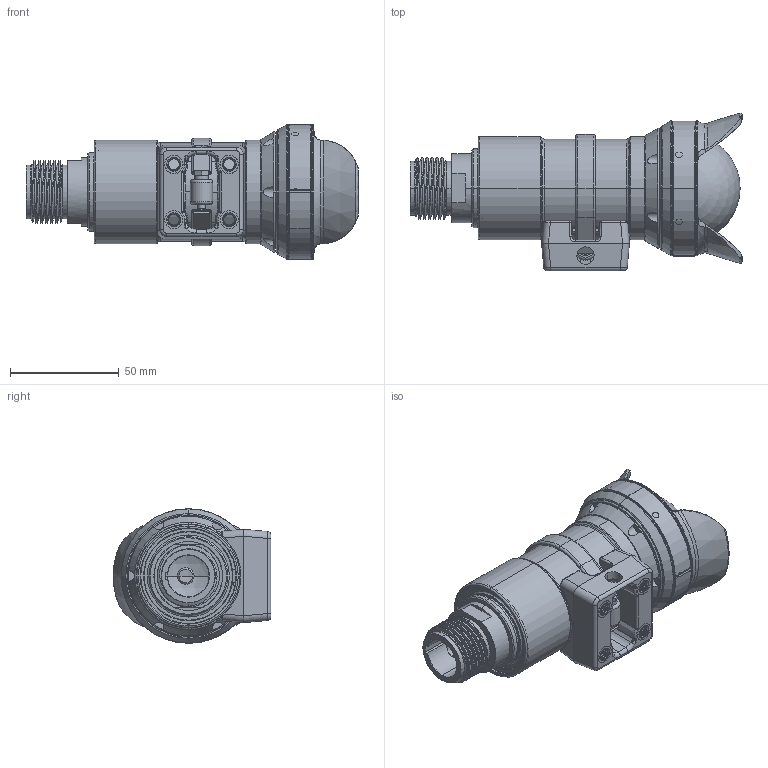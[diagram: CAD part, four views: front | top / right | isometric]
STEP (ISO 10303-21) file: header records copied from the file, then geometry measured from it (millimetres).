
FILE_DESCRIPTION (( 'STEP AP214' ), '1' );
FILE_NAME ('HDMSC-D-MINL-0B-E-20140710a.STEP', '2014-07-10T16:43:39', ( '' ), ( '' ), 'SwSTEP 2.0', 'SolidWorks 2014', '' );
FILE_SCHEMA (( 'AUTOMOTIVE_DESIGN' ));
Length unit declared in the file: inch
Products named in the file (1): HDMSC-D-MINL-0B-E-20140710a
Bounding box: 152.48 x 72.48 x 61.82 mm (x, y, z)
Surface area: 53241.1 mm2 (no closed solid volume)
Topology: 0 solids, 22 shells, 613 faces, 1764 edges, 1143 vertices
Faces by surface type: cylinder 249, torus 102, plane 93, bspline 93, cone 68, sphere 8
Entity records: 43604 total; most frequent: CARTESIAN_POINT 21447, ORIENTED_EDGE 3075, DIRECTION 2704, EDGE_CURVE 1756, VERTEX_POINT 1143, AXIS2_PLACEMENT_3D 1118, EDGE_LOOP 651, DIMENSIONAL_EXPONENTS 615
